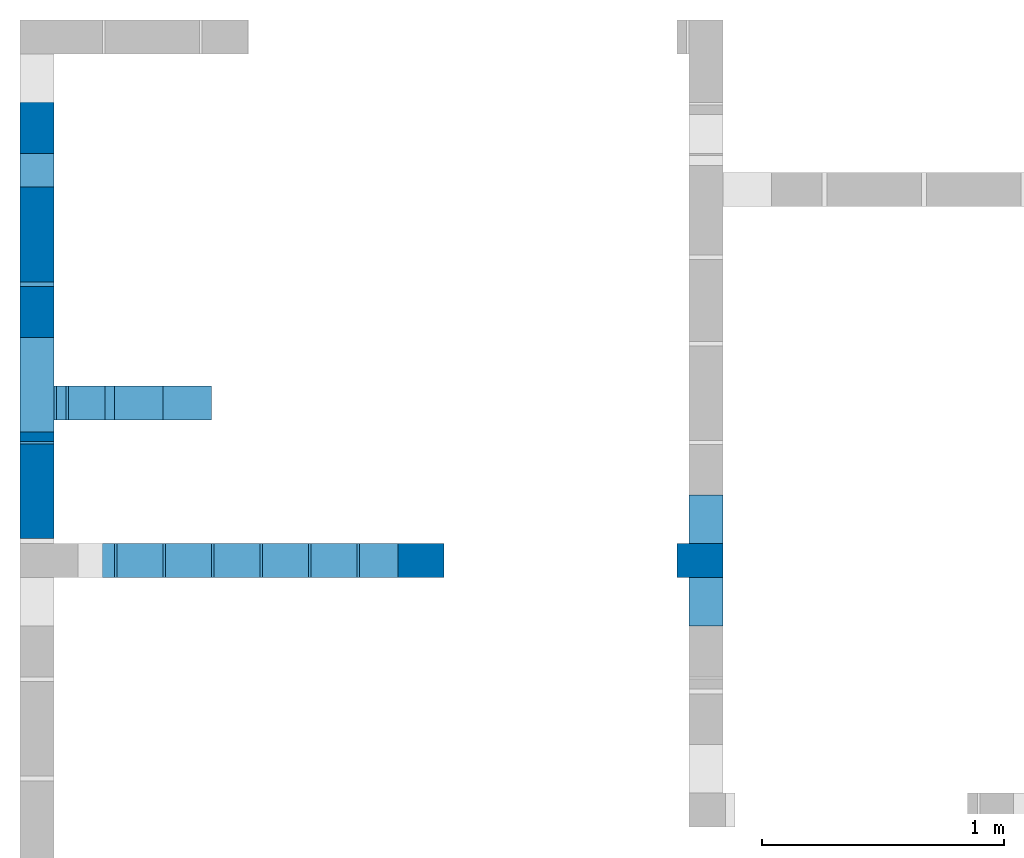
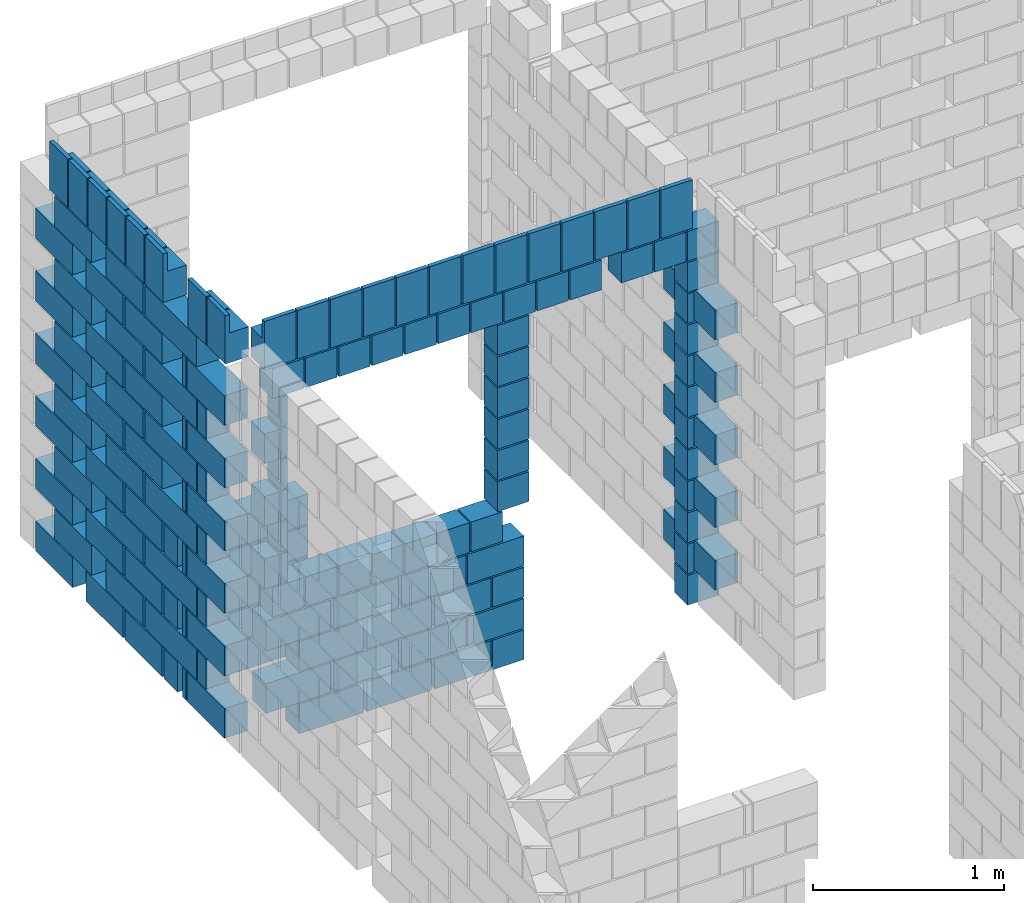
# One storey, part 8 of 12: 7 walls.
"""IFC4 building model written with IfcOpenShell, lengths in centimetres."""

from ifc_helpers import new_model, si_unit, derived_unit, frame, origin, origin_with_axes, origin_2d_with_axis, place, context, project, spatial, rectangle, extrude, element, save


model = new_model("IFC4")

# Units and contexts
model_context = context("Model", 3, precision=1e-05, world=origin_with_axes(), identifier="Body")
ifc_project = project(units=[si_unit("LENGTHUNIT", "METRE", prefix="CENTI"), si_unit("VOLUMEUNIT", "CUBIC_METRE"), si_unit("AREAUNIT", "SQUARE_METRE"), si_unit("POWERUNIT", "WATT"), si_unit("LUMINOUSFLUXUNIT", "LUMEN"), si_unit("ELECTRICCURRENTUNIT", "AMPERE"), si_unit("PRESSUREUNIT", "PASCAL", prefix="KILO"), si_unit("MASSUNIT", "GRAM", prefix="KILO"), si_unit("PLANEANGLEUNIT", "RADIAN"), derived_unit("VOLUMETRICFLOWRATEUNIT", [(si_unit("LENGTHUNIT", "METRE"), 3), (si_unit("TIMEUNIT", "SECOND"), -1)])], contexts=[model_context])

# Site, building, storey
site_placement = place(None, origin_with_axes())
site = spatial("IfcSite", under=ifc_project, at=site_placement)
building_placement = place(site_placement, origin())
building = spatial("IfcBuilding", under=site, at=building_placement)
storey_placement = place(building_placement, origin_with_axes())
storey = spatial("IfcBuildingStorey", under=building, at=storey_placement, Name="PISO", CompositionType="ELEMENT", Elevation=0.0)

# Walls
wall_1_placement = place(storey_placement, frame((18.0, 725.01, 239.0), z_axis=(0.0, 0.0, 1.0), x_axis=(1.0, 0.0, 0.0)))
element("IfcWall", 1, at=wall_1_placement, inside=storey, context=model_context, shape_type="SolidModel", body=[
    extrude(rectangle(XDim=34.0, YDim=14.0, at=origin_2d_with_axis()), frame((0.0, 0.0, -239.0), z_axis=(0.0, 0.0, 1.0), x_axis=(1.0, 0.0, 0.0)), (0.0, 0.0, 1.0), 19.0),
    extrude(rectangle(XDim=54.0, YDim=14.0, at=origin_2d_with_axis()), frame((-10.0, 0.0, -219.0), z_axis=(0.0, 0.0, 1.0), x_axis=(0.0, -1.0, 0.0)), (0.0, 0.0, 1.0), 19.0),
    extrude(rectangle(XDim=34.0, YDim=14.0, at=origin_2d_with_axis()), frame((0.0, 0.0, -199.0), z_axis=(0.0, 0.0, 1.0), x_axis=(1.0, 0.0, 0.0)), (0.0, 0.0, 1.0), 19.0),
    extrude(rectangle(XDim=54.0, YDim=14.0, at=origin_2d_with_axis()), frame((-10.0, 0.0, -179.0), z_axis=(0.0, 0.0, 1.0), x_axis=(0.0, -1.0, 0.0)), (0.0, 0.0, 1.0), 19.0),
    extrude(rectangle(XDim=34.0, YDim=14.0, at=origin_2d_with_axis()), frame((0.0, 0.0, -159.0), z_axis=(0.0, 0.0, 1.0), x_axis=(1.0, 0.0, 0.0)), (0.0, 0.0, 1.0), 19.0),
    extrude(rectangle(XDim=54.0, YDim=14.0, at=origin_2d_with_axis()), frame((-10.0, 0.0, -139.0), z_axis=(0.0, 0.0, 1.0), x_axis=(0.0, -1.0, 0.0)), (0.0, 0.0, 1.0), 19.0),
    extrude(rectangle(XDim=54.0, YDim=14.0, at=origin_2d_with_axis()), frame((-10.0, 0.0, -99.0), z_axis=(0.0, 0.0, 1.0), x_axis=(0.0, -1.0, 0.0)), (0.0, 0.0, 1.0), 19.0),
    extrude(rectangle(XDim=54.0, YDim=14.0, at=origin_2d_with_axis()), frame((-10.0, 0.0, -59.0), z_axis=(0.0, 0.0, 1.0), x_axis=(0.0, -1.0, 0.0)), (0.0, 0.0, 1.0), 19.0),
    extrude(rectangle(XDim=54.0, YDim=14.0, at=origin_2d_with_axis()), frame((-10.0, 0.0, -19.0), z_axis=(0.0, 0.0, 1.0), x_axis=(0.0, -1.0, 0.0)), (0.0, 0.0, 1.0), 19.0),
])
wall_2_placement = place(storey_placement, frame((281.5, 660.01, 239.0), z_axis=(0.0, 0.0, 1.0), x_axis=(1.0, 0.0, 0.0)))
element("IfcWall", 2, at=wall_2_placement, inside=storey, context=model_context, shape_type="SolidModel", body=[
    extrude(rectangle(XDim=19.0, YDim=14.0, at=origin_2d_with_axis()), frame((0.0, 0.0, -239.0), z_axis=(0.0, 0.0, 1.0), x_axis=(-1.0, 0.0, 0.0)), (0.0, 0.0, 1.0), 19.0),
    extrude(rectangle(XDim=54.0, YDim=14.0, at=origin_2d_with_axis()), frame((2.5, 0.0, -219.0), z_axis=(0.0, 0.0, 1.0), x_axis=(0.0, -1.0, 0.0)), (0.0, 0.0, 1.0), 19.0),
    extrude(rectangle(XDim=19.0, YDim=14.0, at=origin_2d_with_axis()), frame((0.0, 0.0, -199.0), z_axis=(0.0, 0.0, 1.0), x_axis=(-1.0, 0.0, 0.0)), (0.0, 0.0, 1.0), 19.0),
    extrude(rectangle(XDim=54.0, YDim=14.0, at=origin_2d_with_axis()), frame((2.5, 0.0, -179.0), z_axis=(0.0, 0.0, 1.0), x_axis=(0.0, -1.0, 0.0)), (0.0, 0.0, 1.0), 19.0),
    extrude(rectangle(XDim=19.0, YDim=14.0, at=origin_2d_with_axis()), frame((0.0, 0.0, -159.0), z_axis=(0.0, 0.0, 1.0), x_axis=(-1.0, 0.0, 0.0)), (0.0, 0.0, 1.0), 19.0),
    extrude(rectangle(XDim=54.0, YDim=14.0, at=origin_2d_with_axis()), frame((2.5, 0.0, -139.0), z_axis=(0.0, 0.0, 1.0), x_axis=(0.0, -1.0, 0.0)), (0.0, 0.0, 1.0), 19.0),
    extrude(rectangle(XDim=19.0, YDim=14.0, at=origin_2d_with_axis()), frame((0.0, 0.0, -119.0), z_axis=(0.0, 0.0, 1.0), x_axis=(-1.0, 0.0, 0.0)), (0.0, 0.0, 1.0), 19.0),
    extrude(rectangle(XDim=54.0, YDim=14.0, at=origin_2d_with_axis()), frame((2.5, 0.0, -99.0), z_axis=(0.0, 0.0, 1.0), x_axis=(0.0, -1.0, 0.0)), (0.0, 0.0, 1.0), 19.0),
    extrude(rectangle(XDim=19.0, YDim=14.0, at=origin_2d_with_axis()), frame((0.0, 0.0, -79.0), z_axis=(0.0, 0.0, 1.0), x_axis=(-1.0, 0.0, 0.0)), (0.0, 0.0, 1.0), 19.0),
    extrude(rectangle(XDim=54.0, YDim=14.0, at=origin_2d_with_axis()), frame((2.5, 0.0, -59.0), z_axis=(0.0, 0.0, 1.0), x_axis=(0.0, -1.0, 0.0)), (0.0, 0.0, 1.0), 19.0),
    extrude(rectangle(XDim=19.0, YDim=14.0, at=origin_2d_with_axis()), frame((0.0, 0.0, -39.0), z_axis=(0.0, 0.0, 1.0), x_axis=(-1.0, 0.0, 0.0)), (0.0, 0.0, 1.0), 19.0),
    extrude(rectangle(XDim=19.0, YDim=14.0, at=origin_2d_with_axis()), frame((0.0, 0.0, -19.0), z_axis=(0.0, 0.0, 1.0), x_axis=(-1.0, 0.0, 0.0)), (0.0, 0.0, 1.0), 19.0),
])
wall_3_placement = place(storey_placement, frame((60.5, 725.01, 99.0), z_axis=(0.0, 0.0, 1.0), x_axis=(1.0, 0.0, 0.0)))
element("IfcWall", 3, at=wall_3_placement, inside=storey, context=model_context, shape_type="SolidModel", body=[
    extrude(rectangle(XDim=39.0, YDim=14.0, at=origin_2d_with_axis()), frame((0.0, 0.0, -99.0), z_axis=(0.0, 0.0, 1.0), x_axis=(-1.0, 0.0, 0.0)), (0.0, 0.0, 1.0), 19.0),
    extrude(rectangle(XDim=19.0, YDim=14.0, at=origin_2d_with_axis()), frame((10.0, 0.0, -79.0), z_axis=(0.0, 0.0, 1.0), x_axis=(-1.0, 0.0, 0.0)), (0.0, 0.0, 1.0), 19.0),
    extrude(rectangle(XDim=39.0, YDim=14.0, at=origin_2d_with_axis()), frame((0.0, 0.0, -59.0), z_axis=(0.0, 0.0, 1.0), x_axis=(-1.0, 0.0, 0.0)), (0.0, 0.0, 1.0), 19.0),
    extrude(rectangle(XDim=19.0, YDim=14.0, at=origin_2d_with_axis()), frame((10.0, 0.0, -39.0), z_axis=(0.0, 0.0, 1.0), x_axis=(-1.0, 0.0, 0.0)), (0.0, 0.0, 1.0), 19.0),
    extrude(rectangle(XDim=39.0, YDim=14.0, at=origin_2d_with_axis()), frame((0.0, 0.0, -19.0), z_axis=(0.0, 0.0, 1.0), x_axis=(-1.0, 0.0, 0.0)), (0.0, 0.0, 1.0), 19.0),
])
wall_4_placement = place(storey_placement, frame((8.0, 800.01, 271.0), z_axis=(0.0, 0.0, 1.0), x_axis=(1.0, 0.0, 0.0)))
element("IfcWall", 4, at=wall_4_placement, inside=storey, Name="PAR-PISO-11", context=model_context, shape_type="SolidModel", body=[
    extrude(rectangle(XDim=39.0, YDim=14.0, at=origin_2d_with_axis()), frame((0.0, -46.5, -271.0), z_axis=(0.0, 0.0, 1.0), x_axis=(0.0, 1.0, 0.0)), (0.0, 0.0, 1.0), 19.0),
    extrude(rectangle(XDim=39.0, YDim=14.0, at=origin_2d_with_axis()), frame((0.0, -5.5, -271.0), z_axis=(0.0, 0.0, 1.0), x_axis=(0.0, 1.0, 0.0)), (0.0, 0.0, 1.0), 19.0),
    extrude(rectangle(XDim=39.0, YDim=14.0, at=origin_2d_with_axis()), frame((0.0, 47.5, -271.0), z_axis=(0.0, 0.0, 1.0), x_axis=(0.0, 1.0, 0.0)), (0.0, 0.0, 1.0), 19.0),
    extrude(rectangle(XDim=39.0, YDim=14.0, at=origin_2d_with_axis()), frame((0.0, -26.5, -251.0), z_axis=(0.0, 0.0, 1.0), x_axis=(0.0, 1.0, 0.0)), (0.0, 0.0, 1.0), 19.0),
    extrude(rectangle(XDim=39.0, YDim=14.0, at=origin_2d_with_axis()), frame((0.0, 27.5, -251.0), z_axis=(0.0, 0.0, 1.0), x_axis=(0.0, 1.0, 0.0)), (0.0, 0.0, 1.0), 19.0),
    extrude(rectangle(XDim=39.0, YDim=14.0, at=origin_2d_with_axis()), frame((0.0, -46.5, -231.0), z_axis=(0.0, 0.0, 1.0), x_axis=(0.0, 1.0, 0.0)), (0.0, 0.0, 1.0), 19.0),
    extrude(rectangle(XDim=39.0, YDim=14.0, at=origin_2d_with_axis()), frame((0.0, -5.5, -231.0), z_axis=(0.0, 0.0, 1.0), x_axis=(0.0, 1.0, 0.0)), (0.0, 0.0, 1.0), 19.0),
    extrude(rectangle(XDim=39.0, YDim=14.0, at=origin_2d_with_axis()), frame((0.0, 47.5, -231.0), z_axis=(0.0, 0.0, 1.0), x_axis=(0.0, 1.0, 0.0)), (0.0, 0.0, 1.0), 19.0),
    extrude(rectangle(XDim=39.0, YDim=14.0, at=origin_2d_with_axis()), frame((0.0, -26.5, -211.0), z_axis=(0.0, 0.0, 1.0), x_axis=(0.0, 1.0, 0.0)), (0.0, 0.0, 1.0), 19.0),
    extrude(rectangle(XDim=39.0, YDim=14.0, at=origin_2d_with_axis()), frame((0.0, 27.5, -211.0), z_axis=(0.0, 0.0, 1.0), x_axis=(0.0, 1.0, 0.0)), (0.0, 0.0, 1.0), 19.0),
    extrude(rectangle(XDim=39.0, YDim=14.0, at=origin_2d_with_axis()), frame((0.0, -46.5, -191.0), z_axis=(0.0, 0.0, 1.0), x_axis=(0.0, 1.0, 0.0)), (0.0, 0.0, 1.0), 19.0),
    extrude(rectangle(XDim=39.0, YDim=14.0, at=origin_2d_with_axis()), frame((0.0, -5.5, -191.0), z_axis=(0.0, 0.0, 1.0), x_axis=(0.0, 1.0, 0.0)), (0.0, 0.0, 1.0), 19.0),
    extrude(rectangle(XDim=39.0, YDim=14.0, at=origin_2d_with_axis()), frame((0.0, 47.5, -191.0), z_axis=(0.0, 0.0, 1.0), x_axis=(0.0, 1.0, 0.0)), (0.0, 0.0, 1.0), 19.0),
    extrude(rectangle(XDim=39.0, YDim=14.0, at=origin_2d_with_axis()), frame((0.0, -26.5, -171.0), z_axis=(0.0, 0.0, 1.0), x_axis=(0.0, 1.0, 0.0)), (0.0, 0.0, 1.0), 19.0),
    extrude(rectangle(XDim=39.0, YDim=14.0, at=origin_2d_with_axis()), frame((0.0, 27.5, -171.0), z_axis=(0.0, 0.0, 1.0), x_axis=(0.0, 1.0, 0.0)), (0.0, 0.0, 1.0), 19.0),
    extrude(rectangle(XDim=39.0, YDim=14.0, at=origin_2d_with_axis()), frame((0.0, -46.5, -151.0), z_axis=(0.0, 0.0, 1.0), x_axis=(0.0, 1.0, 0.0)), (0.0, 0.0, 1.0), 19.0),
    extrude(rectangle(XDim=39.0, YDim=14.0, at=origin_2d_with_axis()), frame((0.0, -5.5, -151.0), z_axis=(0.0, 0.0, 1.0), x_axis=(0.0, 1.0, 0.0)), (0.0, 0.0, 1.0), 19.0),
    extrude(rectangle(XDim=39.0, YDim=14.0, at=origin_2d_with_axis()), frame((0.0, 47.5, -151.0), z_axis=(0.0, 0.0, 1.0), x_axis=(0.0, 1.0, 0.0)), (0.0, 0.0, 1.0), 19.0),
    extrude(rectangle(XDim=39.0, YDim=14.0, at=origin_2d_with_axis()), frame((0.0, -26.5, -131.0), z_axis=(0.0, 0.0, 1.0), x_axis=(0.0, 1.0, 0.0)), (0.0, 0.0, 1.0), 19.0),
    extrude(rectangle(XDim=39.0, YDim=14.0, at=origin_2d_with_axis()), frame((0.0, 27.5, -131.0), z_axis=(0.0, 0.0, 1.0), x_axis=(0.0, 1.0, 0.0)), (0.0, 0.0, 1.0), 19.0),
    extrude(rectangle(XDim=39.0, YDim=14.0, at=origin_2d_with_axis()), frame((0.0, -46.5, -111.0), z_axis=(0.0, 0.0, 1.0), x_axis=(0.0, 1.0, 0.0)), (0.0, 0.0, 1.0), 19.0),
    extrude(rectangle(XDim=39.0, YDim=14.0, at=origin_2d_with_axis()), frame((0.0, -5.5, -111.0), z_axis=(0.0, 0.0, 1.0), x_axis=(0.0, 1.0, 0.0)), (0.0, 0.0, 1.0), 19.0),
    extrude(rectangle(XDim=39.0, YDim=14.0, at=origin_2d_with_axis()), frame((0.0, 47.5, -111.0), z_axis=(0.0, 0.0, 1.0), x_axis=(0.0, 1.0, 0.0)), (0.0, 0.0, 1.0), 19.0),
    extrude(rectangle(XDim=39.0, YDim=14.0, at=origin_2d_with_axis()), frame((0.0, -26.5, -91.0), z_axis=(0.0, 0.0, 1.0), x_axis=(0.0, 1.0, 0.0)), (0.0, 0.0, 1.0), 19.0),
    extrude(rectangle(XDim=39.0, YDim=14.0, at=origin_2d_with_axis()), frame((0.0, 27.5, -91.0), z_axis=(0.0, 0.0, 1.0), x_axis=(0.0, 1.0, 0.0)), (0.0, 0.0, 1.0), 19.0),
    extrude(rectangle(XDim=39.0, YDim=14.0, at=origin_2d_with_axis()), frame((0.0, -46.5, -71.0), z_axis=(0.0, 0.0, 1.0), x_axis=(0.0, 1.0, 0.0)), (0.0, 0.0, 1.0), 19.0),
    extrude(rectangle(XDim=39.0, YDim=14.0, at=origin_2d_with_axis()), frame((0.0, -5.5, -71.0), z_axis=(0.0, 0.0, 1.0), x_axis=(0.0, 1.0, 0.0)), (0.0, 0.0, 1.0), 19.0),
    extrude(rectangle(XDim=39.0, YDim=14.0, at=origin_2d_with_axis()), frame((0.0, 47.5, -71.0), z_axis=(0.0, 0.0, 1.0), x_axis=(0.0, 1.0, 0.0)), (0.0, 0.0, 1.0), 19.0),
    extrude(rectangle(XDim=39.0, YDim=14.0, at=origin_2d_with_axis()), frame((0.0, -26.5, -51.0), z_axis=(0.0, 0.0, 1.0), x_axis=(0.0, 1.0, 0.0)), (0.0, 0.0, 1.0), 19.0),
    extrude(rectangle(XDim=39.0, YDim=14.0, at=origin_2d_with_axis()), frame((0.0, 27.5, -51.0), z_axis=(0.0, 0.0, 1.0), x_axis=(0.0, 1.0, 0.0)), (0.0, 0.0, 1.0), 19.0),
    extrude(rectangle(XDim=19.0, YDim=2.5, at=origin_2d_with_axis()), frame((-5.75, -57.5, -12.0), z_axis=(0.0, 0.0, 1.0), x_axis=(0.0, 1.0, 0.0)), (0.0, 0.0, 1.0), 12.0),
    extrude(rectangle(XDim=19.0, YDim=14.0, at=origin_2d_with_axis()), frame((0.0, -57.5, -31.0), z_axis=(0.0, 0.0, 1.0), x_axis=(0.0, 1.0, 0.0)), (0.0, 0.0, 1.0), 19.0),
    extrude(rectangle(XDim=19.0, YDim=2.5, at=origin_2d_with_axis()), frame((-5.75, -37.5, -12.0), z_axis=(0.0, 0.0, 1.0), x_axis=(0.0, 1.0, 0.0)), (0.0, 0.0, 1.0), 12.0),
    extrude(rectangle(XDim=19.0, YDim=14.0, at=origin_2d_with_axis()), frame((0.0, -37.5, -31.0), z_axis=(0.0, 0.0, 1.0), x_axis=(0.0, 1.0, 0.0)), (0.0, 0.0, 1.0), 19.0),
    extrude(rectangle(XDim=19.0, YDim=2.5, at=origin_2d_with_axis()), frame((-5.75, -17.5, -12.0), z_axis=(0.0, 0.0, 1.0), x_axis=(0.0, 1.0, 0.0)), (0.0, 0.0, 1.0), 12.0),
    extrude(rectangle(XDim=19.0, YDim=14.0, at=origin_2d_with_axis()), frame((0.0, -17.5, -31.0), z_axis=(0.0, 0.0, 1.0), x_axis=(0.0, 1.0, 0.0)), (0.0, 0.0, 1.0), 19.0),
    extrude(rectangle(XDim=19.0, YDim=2.5, at=origin_2d_with_axis()), frame((-5.75, 2.5, -12.0), z_axis=(0.0, 0.0, 1.0), x_axis=(0.0, 1.0, 0.0)), (0.0, 0.0, 1.0), 12.0),
    extrude(rectangle(XDim=19.0, YDim=14.0, at=origin_2d_with_axis()), frame((0.0, 2.5, -31.0), z_axis=(0.0, 0.0, 1.0), x_axis=(0.0, 1.0, 0.0)), (0.0, 0.0, 1.0), 19.0),
    extrude(rectangle(XDim=19.0, YDim=2.5, at=origin_2d_with_axis()), frame((-5.75, 22.5, -12.0), z_axis=(0.0, 0.0, 1.0), x_axis=(0.0, 1.0, 0.0)), (0.0, 0.0, 1.0), 12.0),
    extrude(rectangle(XDim=19.0, YDim=14.0, at=origin_2d_with_axis()), frame((0.0, 22.5, -31.0), z_axis=(0.0, 0.0, 1.0), x_axis=(0.0, 1.0, 0.0)), (0.0, 0.0, 1.0), 19.0),
    extrude(rectangle(XDim=19.0, YDim=2.5, at=origin_2d_with_axis()), frame((-5.75, 42.5, -12.0), z_axis=(0.0, 0.0, 1.0), x_axis=(0.0, 1.0, 0.0)), (0.0, 0.0, 1.0), 12.0),
    extrude(rectangle(XDim=19.0, YDim=14.0, at=origin_2d_with_axis()), frame((0.0, 42.5, -31.0), z_axis=(0.0, 0.0, 1.0), x_axis=(0.0, 1.0, 0.0)), (0.0, 0.0, 1.0), 19.0),
])
wall_5_placement = place(storey_placement, frame((8.0, 690.51, 271.0), z_axis=(0.0, 0.0, 1.0), x_axis=(1.0, 0.0, 0.0)))
element("IfcWall", 5, at=wall_5_placement, inside=storey, Name="PAR-PISO-11", context=model_context, shape_type="SolidModel", body=[
    extrude(rectangle(XDim=39.0, YDim=14.0, at=origin_2d_with_axis()), frame((0.0, -2.0, -271.0), z_axis=(0.0, 0.0, 1.0), x_axis=(0.0, 1.0, 0.0)), (0.0, 0.0, 1.0), 19.0),
    extrude(rectangle(XDim=4.0, YDim=14.0, at=origin_2d_with_axis()), frame((0.0, 20.5, -271.0), z_axis=(0.0, 0.0, 1.0), x_axis=(0.0, 1.0, 0.0)), (0.0, 0.0, 1.0), 19.0),
    extrude(rectangle(XDim=9.0, YDim=14.0, at=origin_2d_with_axis()), frame((0.0, 2.0, -251.0), z_axis=(0.0, 0.0, 1.0), x_axis=(0.0, 1.0, 0.0)), (0.0, 0.0, 1.0), 19.0),
    extrude(rectangle(XDim=39.0, YDim=14.0, at=origin_2d_with_axis()), frame((0.0, -2.0, -231.0), z_axis=(0.0, 0.0, 1.0), x_axis=(0.0, 1.0, 0.0)), (0.0, 0.0, 1.0), 19.0),
    extrude(rectangle(XDim=4.0, YDim=14.0, at=origin_2d_with_axis()), frame((0.0, 20.5, -231.0), z_axis=(0.0, 0.0, 1.0), x_axis=(0.0, 1.0, 0.0)), (0.0, 0.0, 1.0), 19.0),
    extrude(rectangle(XDim=9.0, YDim=14.0, at=origin_2d_with_axis()), frame((0.0, 2.0, -211.0), z_axis=(0.0, 0.0, 1.0), x_axis=(0.0, 1.0, 0.0)), (0.0, 0.0, 1.0), 19.0),
    extrude(rectangle(XDim=39.0, YDim=14.0, at=origin_2d_with_axis()), frame((0.0, -2.0, -191.0), z_axis=(0.0, 0.0, 1.0), x_axis=(0.0, 1.0, 0.0)), (0.0, 0.0, 1.0), 19.0),
    extrude(rectangle(XDim=4.0, YDim=14.0, at=origin_2d_with_axis()), frame((0.0, 20.5, -191.0), z_axis=(0.0, 0.0, 1.0), x_axis=(0.0, 1.0, 0.0)), (0.0, 0.0, 1.0), 19.0),
    extrude(rectangle(XDim=9.0, YDim=14.0, at=origin_2d_with_axis()), frame((0.0, 2.0, -171.0), z_axis=(0.0, 0.0, 1.0), x_axis=(0.0, 1.0, 0.0)), (0.0, 0.0, 1.0), 19.0),
    extrude(rectangle(XDim=39.0, YDim=14.0, at=origin_2d_with_axis()), frame((0.0, -2.0, -151.0), z_axis=(0.0, 0.0, 1.0), x_axis=(0.0, 1.0, 0.0)), (0.0, 0.0, 1.0), 19.0),
    extrude(rectangle(XDim=4.0, YDim=14.0, at=origin_2d_with_axis()), frame((0.0, 20.5, -151.0), z_axis=(0.0, 0.0, 1.0), x_axis=(0.0, 1.0, 0.0)), (0.0, 0.0, 1.0), 19.0),
    extrude(rectangle(XDim=9.0, YDim=14.0, at=origin_2d_with_axis()), frame((0.0, 2.0, -131.0), z_axis=(0.0, 0.0, 1.0), x_axis=(0.0, 1.0, 0.0)), (0.0, 0.0, 1.0), 19.0),
    extrude(rectangle(XDim=39.0, YDim=14.0, at=origin_2d_with_axis()), frame((0.0, -2.0, -111.0), z_axis=(0.0, 0.0, 1.0), x_axis=(0.0, 1.0, 0.0)), (0.0, 0.0, 1.0), 19.0),
    extrude(rectangle(XDim=4.0, YDim=14.0, at=origin_2d_with_axis()), frame((0.0, 20.5, -111.0), z_axis=(0.0, 0.0, 1.0), x_axis=(0.0, 1.0, 0.0)), (0.0, 0.0, 1.0), 19.0),
    extrude(rectangle(XDim=9.0, YDim=14.0, at=origin_2d_with_axis()), frame((0.0, 2.0, -91.0), z_axis=(0.0, 0.0, 1.0), x_axis=(0.0, 1.0, 0.0)), (0.0, 0.0, 1.0), 19.0),
    extrude(rectangle(XDim=39.0, YDim=14.0, at=origin_2d_with_axis()), frame((0.0, -2.0, -71.0), z_axis=(0.0, 0.0, 1.0), x_axis=(0.0, 1.0, 0.0)), (0.0, 0.0, 1.0), 19.0),
    extrude(rectangle(XDim=4.0, YDim=14.0, at=origin_2d_with_axis()), frame((0.0, 20.5, -71.0), z_axis=(0.0, 0.0, 1.0), x_axis=(0.0, 1.0, 0.0)), (0.0, 0.0, 1.0), 19.0),
    extrude(rectangle(XDim=19.0, YDim=2.5, at=origin_2d_with_axis()), frame((-5.75, -13.0, -12.0), z_axis=(0.0, 0.0, 1.0), x_axis=(0.0, 1.0, 0.0)), (0.0, 0.0, 1.0), 12.0),
    extrude(rectangle(XDim=19.0, YDim=14.0, at=origin_2d_with_axis()), frame((0.0, -13.0, -31.0), z_axis=(0.0, 0.0, 1.0), x_axis=(0.0, 1.0, 0.0)), (0.0, 0.0, 1.0), 19.0),
    extrude(rectangle(XDim=19.0, YDim=2.5, at=origin_2d_with_axis()), frame((-5.75, 7.0, -12.0), z_axis=(0.0, 0.0, 1.0), x_axis=(0.0, 1.0, 0.0)), (0.0, 0.0, 1.0), 12.0),
    extrude(rectangle(XDim=19.0, YDim=14.0, at=origin_2d_with_axis()), frame((0.0, 7.0, -31.0), z_axis=(0.0, 0.0, 1.0), x_axis=(0.0, 1.0, 0.0)), (0.0, 0.0, 1.0), 19.0),
])
wall_6_placement = place(storey_placement, frame((38.0, 725.01, 99.0), z_axis=(0.0, 0.0, 1.0), x_axis=(1.0, 0.0, 0.0)))
element("IfcWall", 6, at=wall_6_placement, inside=storey, Name="PAR-PISO-3", context=model_context, shape_type="SolidModel", body=[
    extrude(rectangle(XDim=4.0, YDim=14.0, at=origin_2d_with_axis()), frame((0.0, 0.0, -99.0), z_axis=(0.0, 0.0, 1.0), x_axis=(-1.0, 0.0, 0.0)), (0.0, 0.0, 1.0), 19.0),
    extrude(rectangle(XDim=39.0, YDim=14.0, at=origin_2d_with_axis()), frame((2.5, 0.0, -79.0), z_axis=(0.0, 0.0, 1.0), x_axis=(-1.0, 0.0, 0.0)), (0.0, 0.0, 1.0), 19.0),
    extrude(rectangle(XDim=4.0, YDim=14.0, at=origin_2d_with_axis()), frame((-20.0, 0.0, -79.0), z_axis=(0.0, 0.0, 1.0), x_axis=(-1.0, 0.0, 0.0)), (0.0, 0.0, 1.0), 19.0),
    extrude(rectangle(XDim=4.0, YDim=14.0, at=origin_2d_with_axis()), frame((0.0, 0.0, -59.0), z_axis=(0.0, 0.0, 1.0), x_axis=(-1.0, 0.0, 0.0)), (0.0, 0.0, 1.0), 19.0),
    extrude(rectangle(XDim=39.0, YDim=14.0, at=origin_2d_with_axis()), frame((2.5, 0.0, -39.0), z_axis=(0.0, 0.0, 1.0), x_axis=(-1.0, 0.0, 0.0)), (0.0, 0.0, 1.0), 19.0),
    extrude(rectangle(XDim=4.0, YDim=14.0, at=origin_2d_with_axis()), frame((-20.0, 0.0, -39.0), z_axis=(0.0, 0.0, 1.0), x_axis=(-1.0, 0.0, 0.0)), (0.0, 0.0, 1.0), 19.0),
    extrude(rectangle(XDim=4.0, YDim=14.0, at=origin_2d_with_axis()), frame((0.0, 0.0, -19.0), z_axis=(0.0, 0.0, 1.0), x_axis=(-1.0, 0.0, 0.0)), (0.0, 0.0, 1.0), 19.0),
])
wall_7_placement = place(storey_placement, frame((146.0, 660.01, 271.0), z_axis=(0.0, 0.0, 1.0), x_axis=(1.0, 0.0, 0.0)))
element("IfcWall", 7, at=wall_7_placement, inside=storey, Name="PAR-PISO-4", context=model_context, shape_type="SolidModel", body=[
    extrude(rectangle(XDim=39.0, YDim=14.0, at=origin_2d_with_axis()), frame((-89.5, 0.0, -271.0), z_axis=(0.0, 0.0, 1.0), x_axis=(1.0, 0.0, 0.0)), (0.0, 0.0, 1.0), 19.0),
    extrude(rectangle(XDim=39.0, YDim=14.0, at=origin_2d_with_axis()), frame((-48.5, 0.0, -271.0), z_axis=(0.0, 0.0, 1.0), x_axis=(1.0, 0.0, 0.0)), (0.0, 0.0, 1.0), 19.0),
    extrude(rectangle(XDim=34.0, YDim=14.0, at=origin_2d_with_axis()), frame((-10.0, 0.0, -271.0), z_axis=(0.0, 0.0, 1.0), x_axis=(1.0, 0.0, 0.0)), (0.0, 0.0, 1.0), 19.0),
    extrude(rectangle(XDim=19.0, YDim=14.0, at=origin_2d_with_axis()), frame((17.5, 0.0, -271.0), z_axis=(0.0, 0.0, 1.0), x_axis=(1.0, 0.0, 0.0)), (0.0, 0.0, 1.0), 19.0),
    extrude(rectangle(XDim=39.0, YDim=14.0, at=origin_2d_with_axis()), frame((-109.5, 0.0, -251.0), z_axis=(0.0, 0.0, 1.0), x_axis=(1.0, 0.0, 0.0)), (0.0, 0.0, 1.0), 19.0),
    extrude(rectangle(XDim=39.0, YDim=14.0, at=origin_2d_with_axis()), frame((-68.5, 0.0, -251.0), z_axis=(0.0, 0.0, 1.0), x_axis=(1.0, 0.0, 0.0)), (0.0, 0.0, 1.0), 19.0),
    extrude(rectangle(XDim=39.0, YDim=14.0, at=origin_2d_with_axis()), frame((-27.5, 0.0, -251.0), z_axis=(0.0, 0.0, 1.0), x_axis=(1.0, 0.0, 0.0)), (0.0, 0.0, 1.0), 19.0),
    extrude(rectangle(XDim=4.0, YDim=14.0, at=origin_2d_with_axis()), frame((128.0, 0.0, -251.0), z_axis=(0.0, 0.0, 1.0), x_axis=(1.0, 0.0, 0.0)), (0.0, 0.0, 1.0), 19.0),
    extrude(rectangle(XDim=34.0, YDim=14.0, at=origin_2d_with_axis()), frame((10.0, 0.0, -251.0), z_axis=(0.0, 0.0, 1.0), x_axis=(1.0, 0.0, 0.0)), (0.0, 0.0, 1.0), 19.0),
    extrude(rectangle(XDim=39.0, YDim=14.0, at=origin_2d_with_axis()), frame((-89.5, 0.0, -231.0), z_axis=(0.0, 0.0, 1.0), x_axis=(1.0, 0.0, 0.0)), (0.0, 0.0, 1.0), 19.0),
    extrude(rectangle(XDim=39.0, YDim=14.0, at=origin_2d_with_axis()), frame((-48.5, 0.0, -231.0), z_axis=(0.0, 0.0, 1.0), x_axis=(1.0, 0.0, 0.0)), (0.0, 0.0, 1.0), 19.0),
    extrude(rectangle(XDim=34.0, YDim=14.0, at=origin_2d_with_axis()), frame((-10.0, 0.0, -231.0), z_axis=(0.0, 0.0, 1.0), x_axis=(1.0, 0.0, 0.0)), (0.0, 0.0, 1.0), 19.0),
    extrude(rectangle(XDim=19.0, YDim=14.0, at=origin_2d_with_axis()), frame((17.5, 0.0, -231.0), z_axis=(0.0, 0.0, 1.0), x_axis=(1.0, 0.0, 0.0)), (0.0, 0.0, 1.0), 19.0),
    extrude(rectangle(XDim=39.0, YDim=14.0, at=origin_2d_with_axis()), frame((-109.5, 0.0, -211.0), z_axis=(0.0, 0.0, 1.0), x_axis=(1.0, 0.0, 0.0)), (0.0, 0.0, 1.0), 19.0),
    extrude(rectangle(XDim=39.0, YDim=14.0, at=origin_2d_with_axis()), frame((-68.5, 0.0, -211.0), z_axis=(0.0, 0.0, 1.0), x_axis=(1.0, 0.0, 0.0)), (0.0, 0.0, 1.0), 19.0),
    extrude(rectangle(XDim=39.0, YDim=14.0, at=origin_2d_with_axis()), frame((-27.5, 0.0, -211.0), z_axis=(0.0, 0.0, 1.0), x_axis=(1.0, 0.0, 0.0)), (0.0, 0.0, 1.0), 19.0),
    extrude(rectangle(XDim=4.0, YDim=14.0, at=origin_2d_with_axis()), frame((128.0, 0.0, -211.0), z_axis=(0.0, 0.0, 1.0), x_axis=(1.0, 0.0, 0.0)), (0.0, 0.0, 1.0), 19.0),
    extrude(rectangle(XDim=34.0, YDim=14.0, at=origin_2d_with_axis()), frame((10.0, 0.0, -211.0), z_axis=(0.0, 0.0, 1.0), x_axis=(1.0, 0.0, 0.0)), (0.0, 0.0, 1.0), 19.0),
    extrude(rectangle(XDim=19.0, YDim=14.0, at=origin_2d_with_axis()), frame((-115.5, 0.0, -191.0), z_axis=(0.0, 0.0, 1.0), x_axis=(1.0, 0.0, 0.0)), (0.0, 0.0, 1.0), 19.0),
    extrude(rectangle(XDim=19.0, YDim=14.0, at=origin_2d_with_axis()), frame((-95.5, 0.0, -191.0), z_axis=(0.0, 0.0, 1.0), x_axis=(1.0, 0.0, 0.0)), (0.0, 0.0, 1.0), 19.0),
    extrude(rectangle(XDim=19.0, YDim=14.0, at=origin_2d_with_axis()), frame((-75.5, 0.0, -191.0), z_axis=(0.0, 0.0, 1.0), x_axis=(1.0, 0.0, 0.0)), (0.0, 0.0, 1.0), 19.0),
    extrude(rectangle(XDim=19.0, YDim=14.0, at=origin_2d_with_axis()), frame((-55.5, 0.0, -191.0), z_axis=(0.0, 0.0, 1.0), x_axis=(1.0, 0.0, 0.0)), (0.0, 0.0, 1.0), 19.0),
    extrude(rectangle(XDim=19.0, YDim=14.0, at=origin_2d_with_axis()), frame((-35.5, 0.0, -191.0), z_axis=(0.0, 0.0, 1.0), x_axis=(1.0, 0.0, 0.0)), (0.0, 0.0, 1.0), 19.0),
    extrude(rectangle(XDim=19.0, YDim=14.0, at=origin_2d_with_axis()), frame((-15.5, 0.0, -191.0), z_axis=(0.0, 0.0, 1.0), x_axis=(1.0, 0.0, 0.0)), (0.0, 0.0, 1.0), 19.0),
    extrude(rectangle(XDim=19.0, YDim=14.0, at=origin_2d_with_axis()), frame((4.5, 0.0, -191.0), z_axis=(0.0, 0.0, 1.0), x_axis=(1.0, 0.0, 0.0)), (0.0, 0.0, 1.0), 19.0),
    extrude(rectangle(XDim=4.0, YDim=14.0, at=origin_2d_with_axis()), frame((128.0, 0.0, -171.0), z_axis=(0.0, 0.0, 1.0), x_axis=(1.0, 0.0, 0.0)), (0.0, 0.0, 1.0), 19.0),
    extrude(rectangle(XDim=19.0, YDim=14.0, at=origin_2d_with_axis()), frame((20.5, 0.0, -171.0), z_axis=(0.0, 0.0, 1.0), x_axis=(1.0, 0.0, 0.0)), (0.0, 0.0, 1.0), 19.0),
    extrude(rectangle(XDim=9.0, YDim=14.0, at=origin_2d_with_axis()), frame((-125.5, 0.0, -171.0), z_axis=(0.0, 0.0, 1.0), x_axis=(1.0, 0.0, 0.0)), (0.0, 0.0, 1.0), 19.0),
    extrude(rectangle(XDim=4.0, YDim=14.0, at=origin_2d_with_axis()), frame((-118.0, 0.0, -171.0), z_axis=(0.0, 0.0, 1.0), x_axis=(1.0, 0.0, 0.0)), (0.0, 0.0, 1.0), 19.0),
    extrude(rectangle(XDim=19.0, YDim=14.0, at=origin_2d_with_axis()), frame((20.5, 0.0, -151.0), z_axis=(0.0, 0.0, 1.0), x_axis=(1.0, 0.0, 0.0)), (0.0, 0.0, 1.0), 19.0),
    extrude(rectangle(XDim=4.0, YDim=14.0, at=origin_2d_with_axis()), frame((-118.0, 0.0, -151.0), z_axis=(0.0, 0.0, 1.0), x_axis=(1.0, 0.0, 0.0)), (0.0, 0.0, 1.0), 19.0),
    extrude(rectangle(XDim=4.0, YDim=14.0, at=origin_2d_with_axis()), frame((128.0, 0.0, -131.0), z_axis=(0.0, 0.0, 1.0), x_axis=(1.0, 0.0, 0.0)), (0.0, 0.0, 1.0), 19.0),
    extrude(rectangle(XDim=19.0, YDim=14.0, at=origin_2d_with_axis()), frame((20.5, 0.0, -131.0), z_axis=(0.0, 0.0, 1.0), x_axis=(1.0, 0.0, 0.0)), (0.0, 0.0, 1.0), 19.0),
    extrude(rectangle(XDim=9.0, YDim=14.0, at=origin_2d_with_axis()), frame((-125.5, 0.0, -131.0), z_axis=(0.0, 0.0, 1.0), x_axis=(1.0, 0.0, 0.0)), (0.0, 0.0, 1.0), 19.0),
    extrude(rectangle(XDim=4.0, YDim=14.0, at=origin_2d_with_axis()), frame((-118.0, 0.0, -131.0), z_axis=(0.0, 0.0, 1.0), x_axis=(1.0, 0.0, 0.0)), (0.0, 0.0, 1.0), 19.0),
    extrude(rectangle(XDim=19.0, YDim=14.0, at=origin_2d_with_axis()), frame((20.5, 0.0, -111.0), z_axis=(0.0, 0.0, 1.0), x_axis=(1.0, 0.0, 0.0)), (0.0, 0.0, 1.0), 19.0),
    extrude(rectangle(XDim=4.0, YDim=14.0, at=origin_2d_with_axis()), frame((-118.0, 0.0, -111.0), z_axis=(0.0, 0.0, 1.0), x_axis=(1.0, 0.0, 0.0)), (0.0, 0.0, 1.0), 19.0),
    extrude(rectangle(XDim=4.0, YDim=14.0, at=origin_2d_with_axis()), frame((128.0, 0.0, -91.0), z_axis=(0.0, 0.0, 1.0), x_axis=(1.0, 0.0, 0.0)), (0.0, 0.0, 1.0), 19.0),
    extrude(rectangle(XDim=19.0, YDim=14.0, at=origin_2d_with_axis()), frame((20.5, 0.0, -91.0), z_axis=(0.0, 0.0, 1.0), x_axis=(1.0, 0.0, 0.0)), (0.0, 0.0, 1.0), 19.0),
    extrude(rectangle(XDim=9.0, YDim=14.0, at=origin_2d_with_axis()), frame((-125.5, 0.0, -91.0), z_axis=(0.0, 0.0, 1.0), x_axis=(1.0, 0.0, 0.0)), (0.0, 0.0, 1.0), 19.0),
    extrude(rectangle(XDim=4.0, YDim=14.0, at=origin_2d_with_axis()), frame((-118.0, 0.0, -91.0), z_axis=(0.0, 0.0, 1.0), x_axis=(1.0, 0.0, 0.0)), (0.0, 0.0, 1.0), 19.0),
    extrude(rectangle(XDim=19.0, YDim=14.0, at=origin_2d_with_axis()), frame((20.5, 0.0, -71.0), z_axis=(0.0, 0.0, 1.0), x_axis=(1.0, 0.0, 0.0)), (0.0, 0.0, 1.0), 19.0),
    extrude(rectangle(XDim=4.0, YDim=14.0, at=origin_2d_with_axis()), frame((-118.0, 0.0, -71.0), z_axis=(0.0, 0.0, 1.0), x_axis=(1.0, 0.0, 0.0)), (0.0, 0.0, 1.0), 19.0),
    extrude(rectangle(XDim=19.0, YDim=14.0, at=origin_2d_with_axis()), frame((-115.5, 0.0, -51.0), z_axis=(0.0, 0.0, 1.0), x_axis=(1.0, 0.0, 0.0)), (0.0, 0.0, 1.0), 19.0),
    extrude(rectangle(XDim=19.0, YDim=14.0, at=origin_2d_with_axis()), frame((-95.5, 0.0, -51.0), z_axis=(0.0, 0.0, 1.0), x_axis=(1.0, 0.0, 0.0)), (0.0, 0.0, 1.0), 19.0),
    extrude(rectangle(XDim=19.0, YDim=14.0, at=origin_2d_with_axis()), frame((-75.5, 0.0, -51.0), z_axis=(0.0, 0.0, 1.0), x_axis=(1.0, 0.0, 0.0)), (0.0, 0.0, 1.0), 19.0),
    extrude(rectangle(XDim=19.0, YDim=14.0, at=origin_2d_with_axis()), frame((-55.5, 0.0, -51.0), z_axis=(0.0, 0.0, 1.0), x_axis=(1.0, 0.0, 0.0)), (0.0, 0.0, 1.0), 19.0),
    extrude(rectangle(XDim=19.0, YDim=14.0, at=origin_2d_with_axis()), frame((-35.5, 0.0, -51.0), z_axis=(0.0, 0.0, 1.0), x_axis=(1.0, 0.0, 0.0)), (0.0, 0.0, 1.0), 19.0),
    extrude(rectangle(XDim=19.0, YDim=14.0, at=origin_2d_with_axis()), frame((-15.5, 0.0, -51.0), z_axis=(0.0, 0.0, 1.0), x_axis=(1.0, 0.0, 0.0)), (0.0, 0.0, 1.0), 19.0),
    extrude(rectangle(XDim=19.0, YDim=14.0, at=origin_2d_with_axis()), frame((4.5, 0.0, -51.0), z_axis=(0.0, 0.0, 1.0), x_axis=(1.0, 0.0, 0.0)), (0.0, 0.0, 1.0), 19.0),
    extrude(rectangle(XDim=19.0, YDim=14.0, at=origin_2d_with_axis()), frame((24.5, 0.0, -51.0), z_axis=(0.0, 0.0, 1.0), x_axis=(1.0, 0.0, 0.0)), (0.0, 0.0, 1.0), 19.0),
    extrude(rectangle(XDim=19.0, YDim=14.0, at=origin_2d_with_axis()), frame((44.5, 0.0, -51.0), z_axis=(0.0, 0.0, 1.0), x_axis=(1.0, 0.0, 0.0)), (0.0, 0.0, 1.0), 19.0),
    extrude(rectangle(XDim=19.0, YDim=14.0, at=origin_2d_with_axis()), frame((64.5, 0.0, -51.0), z_axis=(0.0, 0.0, 1.0), x_axis=(1.0, 0.0, 0.0)), (0.0, 0.0, 1.0), 19.0),
    extrude(rectangle(XDim=19.0, YDim=14.0, at=origin_2d_with_axis()), frame((95.5, 0.0, -51.0), z_axis=(0.0, 0.0, 1.0), x_axis=(1.0, 0.0, 0.0)), (0.0, 0.0, 1.0), 19.0),
    extrude(rectangle(XDim=19.0, YDim=14.0, at=origin_2d_with_axis()), frame((115.5, 0.0, -51.0), z_axis=(0.0, 0.0, 1.0), x_axis=(1.0, 0.0, 0.0)), (0.0, 0.0, 1.0), 19.0),
    extrude(rectangle(XDim=19.0, YDim=2.5, at=origin_2d_with_axis()), frame((-120.5, -5.75, -12.0), z_axis=(0.0, 0.0, 1.0), x_axis=(1.0, 0.0, 0.0)), (0.0, 0.0, 1.0), 12.0),
    extrude(rectangle(XDim=19.0, YDim=14.0, at=origin_2d_with_axis()), frame((-120.5, 0.0, -31.0), z_axis=(0.0, 0.0, 1.0), x_axis=(1.0, 0.0, 0.0)), (0.0, 0.0, 1.0), 19.0),
    extrude(rectangle(XDim=19.0, YDim=2.5, at=origin_2d_with_axis()), frame((-100.5, -5.75, -12.0), z_axis=(0.0, 0.0, 1.0), x_axis=(1.0, 0.0, 0.0)), (0.0, 0.0, 1.0), 12.0),
    extrude(rectangle(XDim=19.0, YDim=14.0, at=origin_2d_with_axis()), frame((-100.5, 0.0, -31.0), z_axis=(0.0, 0.0, 1.0), x_axis=(1.0, 0.0, 0.0)), (0.0, 0.0, 1.0), 19.0),
    extrude(rectangle(XDim=19.0, YDim=2.5, at=origin_2d_with_axis()), frame((-80.5, -5.75, -12.0), z_axis=(0.0, 0.0, 1.0), x_axis=(1.0, 0.0, 0.0)), (0.0, 0.0, 1.0), 12.0),
    extrude(rectangle(XDim=19.0, YDim=14.0, at=origin_2d_with_axis()), frame((-80.5, 0.0, -31.0), z_axis=(0.0, 0.0, 1.0), x_axis=(1.0, 0.0, 0.0)), (0.0, 0.0, 1.0), 19.0),
    extrude(rectangle(XDim=19.0, YDim=2.5, at=origin_2d_with_axis()), frame((-60.5, -5.75, -12.0), z_axis=(0.0, 0.0, 1.0), x_axis=(1.0, 0.0, 0.0)), (0.0, 0.0, 1.0), 12.0),
    extrude(rectangle(XDim=19.0, YDim=14.0, at=origin_2d_with_axis()), frame((-60.5, 0.0, -31.0), z_axis=(0.0, 0.0, 1.0), x_axis=(1.0, 0.0, 0.0)), (0.0, 0.0, 1.0), 19.0),
    extrude(rectangle(XDim=19.0, YDim=2.5, at=origin_2d_with_axis()), frame((-40.5, -5.75, -12.0), z_axis=(0.0, 0.0, 1.0), x_axis=(1.0, 0.0, 0.0)), (0.0, 0.0, 1.0), 12.0),
    extrude(rectangle(XDim=19.0, YDim=14.0, at=origin_2d_with_axis()), frame((-40.5, 0.0, -31.0), z_axis=(0.0, 0.0, 1.0), x_axis=(1.0, 0.0, 0.0)), (0.0, 0.0, 1.0), 19.0),
    extrude(rectangle(XDim=19.0, YDim=2.5, at=origin_2d_with_axis()), frame((-20.5, -5.75, -12.0), z_axis=(0.0, 0.0, 1.0), x_axis=(1.0, 0.0, 0.0)), (0.0, 0.0, 1.0), 12.0),
    extrude(rectangle(XDim=19.0, YDim=14.0, at=origin_2d_with_axis()), frame((-20.5, 0.0, -31.0), z_axis=(0.0, 0.0, 1.0), x_axis=(1.0, 0.0, 0.0)), (0.0, 0.0, 1.0), 19.0),
    extrude(rectangle(XDim=19.0, YDim=2.5, at=origin_2d_with_axis()), frame((-0.5, -5.75, -12.0), z_axis=(0.0, 0.0, 1.0), x_axis=(1.0, 0.0, 0.0)), (0.0, 0.0, 1.0), 12.0),
    extrude(rectangle(XDim=19.0, YDim=14.0, at=origin_2d_with_axis()), frame((-0.5, 0.0, -31.0), z_axis=(0.0, 0.0, 1.0), x_axis=(1.0, 0.0, 0.0)), (0.0, 0.0, 1.0), 19.0),
    extrude(rectangle(XDim=19.0, YDim=2.5, at=origin_2d_with_axis()), frame((19.5, -5.75, -12.0), z_axis=(0.0, 0.0, 1.0), x_axis=(1.0, 0.0, 0.0)), (0.0, 0.0, 1.0), 12.0),
    extrude(rectangle(XDim=19.0, YDim=14.0, at=origin_2d_with_axis()), frame((19.5, 0.0, -31.0), z_axis=(0.0, 0.0, 1.0), x_axis=(1.0, 0.0, 0.0)), (0.0, 0.0, 1.0), 19.0),
    extrude(rectangle(XDim=19.0, YDim=2.5, at=origin_2d_with_axis()), frame((39.5, -5.75, -12.0), z_axis=(0.0, 0.0, 1.0), x_axis=(1.0, 0.0, 0.0)), (0.0, 0.0, 1.0), 12.0),
    extrude(rectangle(XDim=19.0, YDim=14.0, at=origin_2d_with_axis()), frame((39.5, 0.0, -31.0), z_axis=(0.0, 0.0, 1.0), x_axis=(1.0, 0.0, 0.0)), (0.0, 0.0, 1.0), 19.0),
    extrude(rectangle(XDim=19.0, YDim=2.5, at=origin_2d_with_axis()), frame((59.5, -5.75, -12.0), z_axis=(0.0, 0.0, 1.0), x_axis=(1.0, 0.0, 0.0)), (0.0, 0.0, 1.0), 12.0),
    extrude(rectangle(XDim=19.0, YDim=14.0, at=origin_2d_with_axis()), frame((59.5, 0.0, -31.0), z_axis=(0.0, 0.0, 1.0), x_axis=(1.0, 0.0, 0.0)), (0.0, 0.0, 1.0), 19.0),
    extrude(rectangle(XDim=19.0, YDim=2.5, at=origin_2d_with_axis()), frame((79.5, -5.75, -12.0), z_axis=(0.0, 0.0, 1.0), x_axis=(1.0, 0.0, 0.0)), (0.0, 0.0, 1.0), 12.0),
    extrude(rectangle(XDim=19.0, YDim=14.0, at=origin_2d_with_axis()), frame((79.5, 0.0, -31.0), z_axis=(0.0, 0.0, 1.0), x_axis=(1.0, 0.0, 0.0)), (0.0, 0.0, 1.0), 19.0),
    extrude(rectangle(XDim=19.0, YDim=2.5, at=origin_2d_with_axis()), frame((99.5, -5.75, -12.0), z_axis=(0.0, 0.0, 1.0), x_axis=(1.0, 0.0, 0.0)), (0.0, 0.0, 1.0), 12.0),
    extrude(rectangle(XDim=19.0, YDim=14.0, at=origin_2d_with_axis()), frame((99.5, 0.0, -31.0), z_axis=(0.0, 0.0, 1.0), x_axis=(1.0, 0.0, 0.0)), (0.0, 0.0, 1.0), 19.0),
    extrude(rectangle(XDim=19.0, YDim=2.5, at=origin_2d_with_axis()), frame((119.5, -5.75, -12.0), z_axis=(0.0, 0.0, 1.0), x_axis=(1.0, 0.0, 0.0)), (0.0, 0.0, 1.0), 12.0),
    extrude(rectangle(XDim=19.0, YDim=14.0, at=origin_2d_with_axis()), frame((119.5, 0.0, -31.0), z_axis=(0.0, 0.0, 1.0), x_axis=(1.0, 0.0, 0.0)), (0.0, 0.0, 1.0), 19.0),
])

save(model, "model.ifc")
